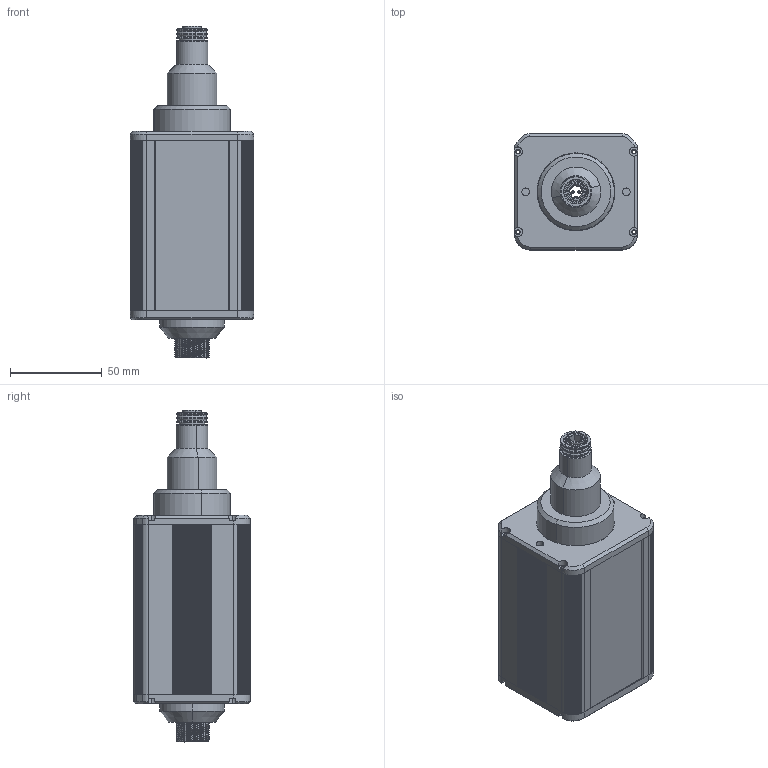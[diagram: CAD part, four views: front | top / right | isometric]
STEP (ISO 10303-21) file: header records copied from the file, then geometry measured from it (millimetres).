
FILE_DESCRIPTION (( 'STEP AP203' ), '1' );
FILE_NAME ('ZEDA-DE-MA6.35-0200.STEP', '2026-06-04T03:31:24', ( 'Windows User' ), ( 'P R C' ), 'SwSTEP 2.0', 'SolidWorks 2025', '' );
FILE_SCHEMA (( 'CONFIG_CONTROL_DESIGN' ));
Products named in the file (1): ZEDA-DE-MA6.35-0200
Bounding box: 67.4 x 63.4 x 181.35 mm (x, y, z)
Surface area: 49564.5 mm2 (no closed solid volume)
Topology: 0 solids, 22 shells, 495 faces, 1600 edges, 1105 vertices
Faces by surface type: cylinder 303, plane 92, cone 46, bspline 28, torus 26
Entity records: 31304 total; most frequent: CARTESIAN_POINT 17325, DIRECTION 3008, ORIENTED_EDGE 2840, EDGE_CURVE 1600, AXIS2_PLACEMENT_3D 1180, VERTEX_POINT 1105, CIRCLE 712, LINE 648
